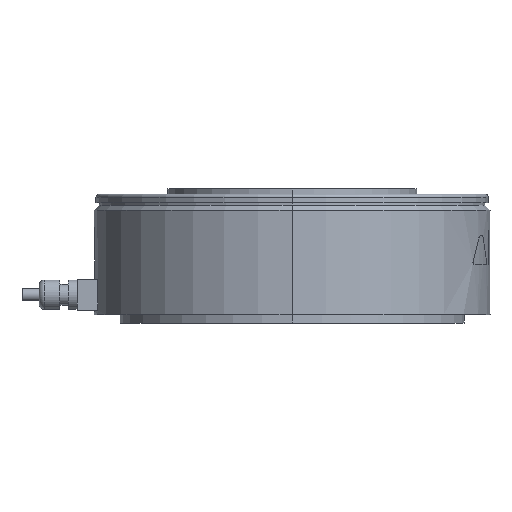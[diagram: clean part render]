
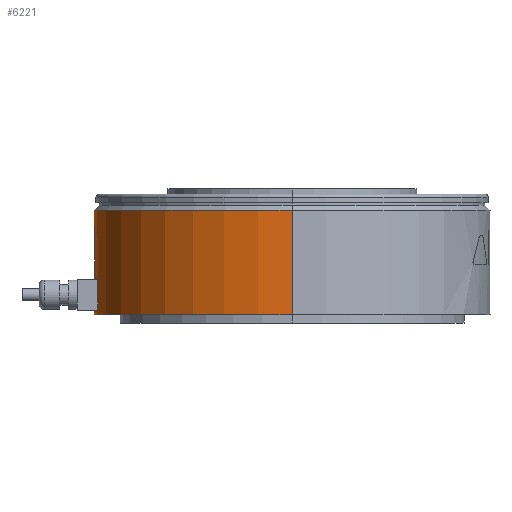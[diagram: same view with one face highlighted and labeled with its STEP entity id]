
A CAD part, left-side view. The second image highlights one B-rep face of the part: STEP entity #6221.
In plain terms, the highlighted cylindrical face has radius 115 mm (diameter 230 mm), a partial arc.
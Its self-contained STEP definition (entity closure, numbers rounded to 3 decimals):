
#55 = ORIENTED_EDGE ( 'NONE', *, *, #2546, .T. ) ;
#56 = ORIENTED_EDGE ( 'NONE', *, *, #2511, .T. ) ;
#57 = ORIENTED_EDGE ( 'NONE', *, *, #2519, .T. ) ;
#58 = ORIENTED_EDGE ( 'NONE', *, *, #2508, .T. ) ;
#59 = ORIENTED_EDGE ( 'NONE', *, *, #301, .T. ) ;
#60 = ORIENTED_EDGE ( 'NONE', *, *, #2529, .T. ) ;
#61 = ORIENTED_EDGE ( 'NONE', *, *, #2545, .F. ) ;
#62 = ORIENTED_EDGE ( 'NONE', *, *, #2534, .F. ) ;
#301 = EDGE_CURVE ( 'NONE', #1085, #1122, #469, .T. ) ;
#420 = AXIS2_PLACEMENT_3D ( 'NONE', #6595, #6594, #6593 ) ;
#469 = CIRCLE ( 'NONE', #420, 115. ) ;
#1082 = VERTEX_POINT ( 'NONE', #5600 ) ;
#1085 = VERTEX_POINT ( 'NONE', #5603 ) ;
#1088 = VERTEX_POINT ( 'NONE', #5606 ) ;
#1096 = VERTEX_POINT ( 'NONE', #5614 ) ;
#1112 = VERTEX_POINT ( 'NONE', #5630 ) ;
#1115 = VERTEX_POINT ( 'NONE', #5633 ) ;
#1122 = VERTEX_POINT ( 'NONE', #5640 ) ;
#1139 = VERTEX_POINT ( 'NONE', #5657 ) ;
#1191 = EDGE_LOOP ( 'NONE', ( #55, #56, #57, #58 ) ) ;
#2457 = FACE_BOUND ( 'NONE', #1191, .T. ) ;
#2459 = CYLINDRICAL_SURFACE ( 'NONE', #3957, 115. ) ;
#2465 = FACE_OUTER_BOUND ( 'NONE', #4108, .T. ) ;
#2508 = EDGE_CURVE ( 'NONE', #1139, #1112, #2620, .T. ) ;
#2511 = EDGE_CURVE ( 'NONE', #1088, #1082, #2622, .T. ) ;
#2519 = EDGE_CURVE ( 'NONE', #1082, #1139, #6233, .T. ) ;
#2529 = EDGE_CURVE ( 'NONE', #1122, #1115, #6247, .T. ) ;
#2534 = EDGE_CURVE ( 'NONE', #1085, #1096, #6252, .T. ) ;
#2545 = EDGE_CURVE ( 'NONE', #1096, #1115, #6262, .T. ) ;
#2546 = EDGE_CURVE ( 'NONE', #1112, #1088, #6264, .T. ) ;
#2609 = VECTOR ( 'NONE', #4739, 1000. ) ;
#2620 = LINE ( 'NONE', #4722, #2609 ) ;
#2622 = LINE ( 'NONE', #4747, #2623 ) ;
#2623 = VECTOR ( 'NONE', #4748, 1000. ) ;
#3957 = AXIS2_PLACEMENT_3D ( 'NONE', #7204, #7203, #7202 ) ;
#4108 = EDGE_LOOP ( 'NONE', ( #59, #60, #61, #62 ) ) ;
#4722 = CARTESIAN_POINT ( 'NONE',  ( 21.75, 112.924, 0. ) ) ;
#4739 = DIRECTION ( 'NONE',  ( 0., 0., 1. ) ) ;
#4747 = CARTESIAN_POINT ( 'NONE',  ( -21.75, 112.924, 0. ) ) ;
#4748 = DIRECTION ( 'NONE',  ( 0., 0., -1. ) ) ;
#4763 = CARTESIAN_POINT ( 'NONE',  ( 0., 0., 7.5 ) ) ;
#4770 = DIRECTION ( 'NONE',  ( 0., 0., -1. ) ) ;
#4771 = DIRECTION ( 'NONE',  ( 1., 0., 0. ) ) ;
#4794 = CARTESIAN_POINT ( 'NONE',  ( 115., 0., 0. ) ) ;
#4795 = DIRECTION ( 'NONE',  ( 0., 0., -1. ) ) ;
#4807 = CARTESIAN_POINT ( 'NONE',  ( -115., 0., 0. ) ) ;
#4808 = DIRECTION ( 'NONE',  ( 0., 0., -1. ) ) ;
#4815 = CARTESIAN_POINT ( 'NONE',  ( 0., 0., 5. ) ) ;
#4818 = CARTESIAN_POINT ( 'NONE',  ( 0., 0., 25.5 ) ) ;
#4822 = DIRECTION ( 'NONE',  ( 0., 0., -1. ) ) ;
#4823 = DIRECTION ( 'NONE',  ( -1., 0., 0. ) ) ;
#4826 = DIRECTION ( 'NONE',  ( 0., 0., 1. ) ) ;
#4827 = DIRECTION ( 'NONE',  ( -1., 0., 0. ) ) ;
#5600 = CARTESIAN_POINT ( 'NONE',  ( -21.75, 112.924, 7.5 ) ) ;
#5603 = CARTESIAN_POINT ( 'NONE',  ( -115., 0., 65.5 ) ) ;
#5606 = CARTESIAN_POINT ( 'NONE',  ( -21.75, 112.924, 25.5 ) ) ;
#5614 = CARTESIAN_POINT ( 'NONE',  ( -115., 0., 5. ) ) ;
#5630 = CARTESIAN_POINT ( 'NONE',  ( 21.75, 112.924, 25.5 ) ) ;
#5633 = CARTESIAN_POINT ( 'NONE',  ( 115., 0., 5. ) ) ;
#5640 = CARTESIAN_POINT ( 'NONE',  ( 115., 0., 65.5 ) ) ;
#5657 = CARTESIAN_POINT ( 'NONE',  ( 21.75, 112.924, 7.5 ) ) ;
#5901 = AXIS2_PLACEMENT_3D ( 'NONE', #4763, #4770, #4771 ) ;
#6221 = ADVANCED_FACE ( 'NONE', ( #2457, #2465 ), #2459, .T. ) ;
#6233 = CIRCLE ( 'NONE', #5901, 115. ) ;
#6247 = LINE ( 'NONE', #4794, #6248 ) ;
#6248 = VECTOR ( 'NONE', #4795, 1000. ) ;
#6252 = LINE ( 'NONE', #4807, #6253 ) ;
#6253 = VECTOR ( 'NONE', #4808, 1000. ) ;
#6262 = CIRCLE ( 'NONE', #6651, 115. ) ;
#6264 = CIRCLE ( 'NONE', #6343, 115. ) ;
#6343 = AXIS2_PLACEMENT_3D ( 'NONE', #4818, #4826, #4827 ) ;
#6593 = DIRECTION ( 'NONE',  ( -1., 0., 0. ) ) ;
#6594 = DIRECTION ( 'NONE',  ( 0., 0., -1. ) ) ;
#6595 = CARTESIAN_POINT ( 'NONE',  ( 0., 0., 65.5 ) ) ;
#6651 = AXIS2_PLACEMENT_3D ( 'NONE', #4815, #4822, #4823 ) ;
#7202 = DIRECTION ( 'NONE',  ( -1., 0., 0. ) ) ;
#7203 = DIRECTION ( 'NONE',  ( 0., 0., -1. ) ) ;
#7204 = CARTESIAN_POINT ( 'NONE',  ( 0., 0., 0. ) ) ;
